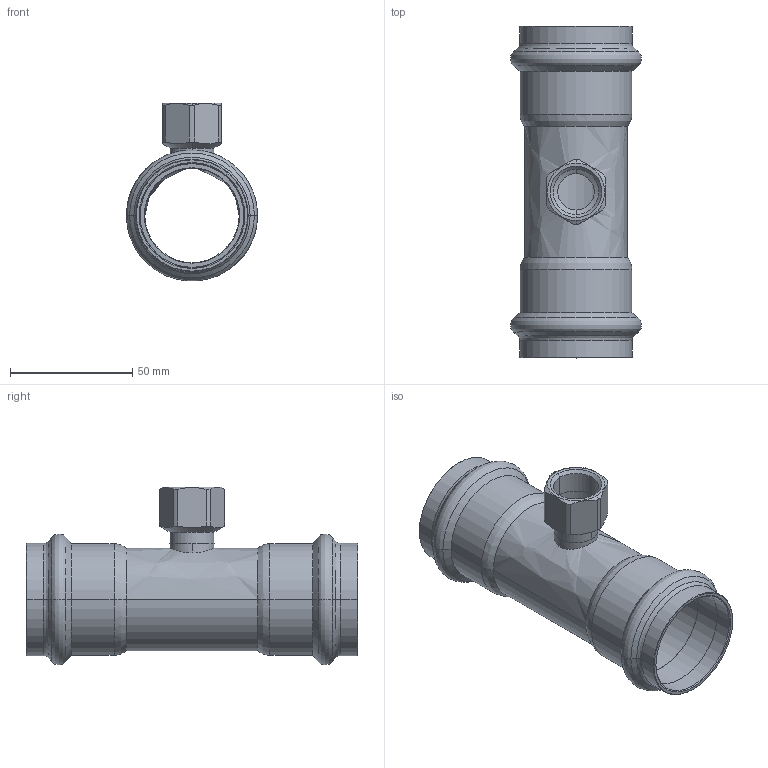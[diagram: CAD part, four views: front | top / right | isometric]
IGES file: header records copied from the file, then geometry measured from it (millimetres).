
Start section: Elysium IGES Interface
Global section: file name: C:\Users\Wallenburg\Desktop\3d modellen sudo\S-Pr VP\SP6130GV\6130GVW421242.igs; native system: CoCreate Modeling 17.00A  17-Jun-2010; preprocessor: CoCreate IGES_3D V2.2; author: Unknown; organization: Unknown; date: 20130121.152609; units: millimetre
Bounding box: 53.61 x 135.73 x 72.79 mm (x, y, z)
Volume: 43490.2 mm3; surface area: 42395.7 mm2
Topology: 1 solids, 1 shells, 117 faces, 257 edges, 146 vertices
Faces by surface type: bspline 117
